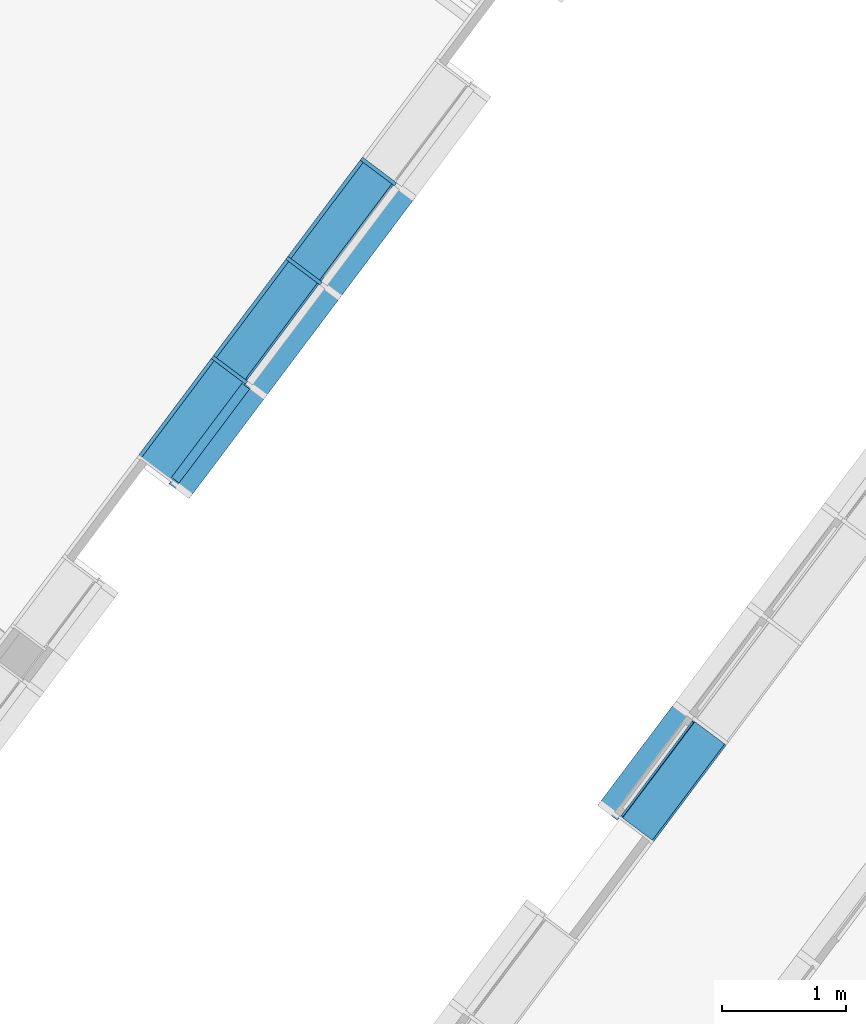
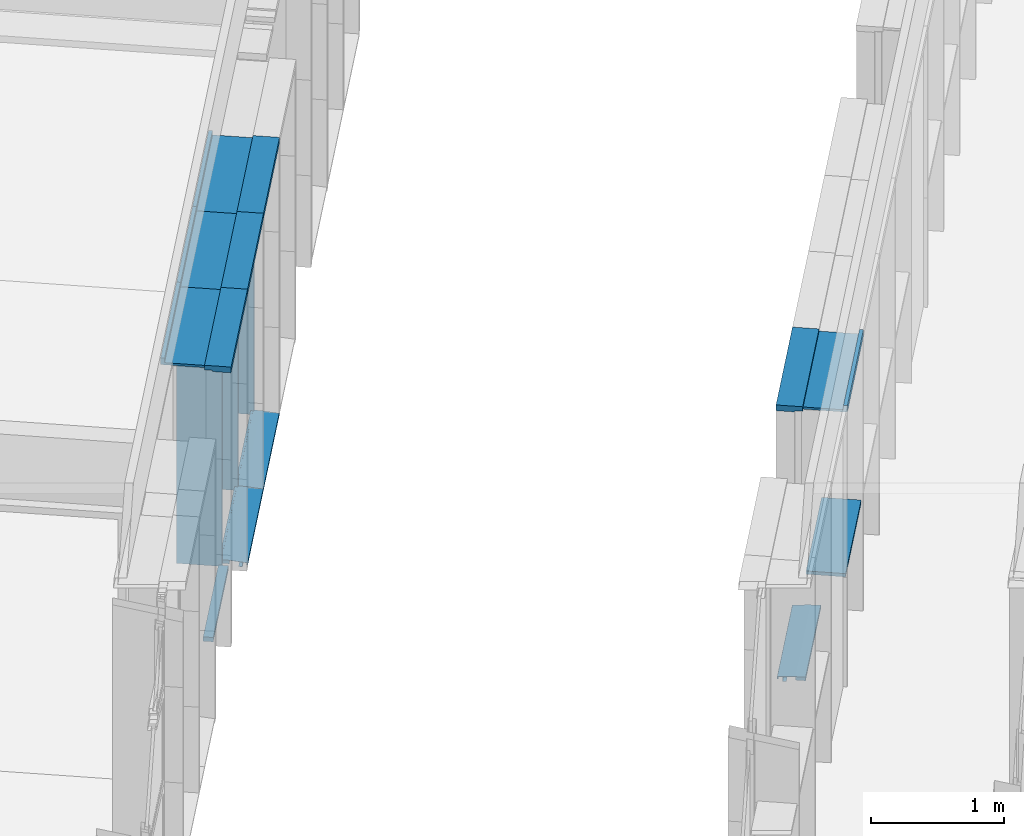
# One storey, part 44 of 243: 16 members, 4 elements without a shape of their own.
"""IFC2X3 building model written with IfcOpenShell, lengths in metres."""

from ifc_helpers import new_model, entity, si_unit, converted_unit, derived_unit, direction, frame, frame_2d, origin, origin_2d_with_axis, place, context, subcontext, project, spatial, polyline, circle_curve, parameter, trimmed, segment, composite_curve, rectangle, outline, extrude, source, transform, mapped, material, type_object, type_shapes, element, aggregate, save


model = new_model("IFC2X3")

# Units and contexts
model_context = context("Model", 3, precision=1e-05, world=origin(), true_north=direction((6.123031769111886e-17, 1.0)))
body_context = subcontext(model_context, "Body", "Model", "MODEL_VIEW")
ifc_project = project(units=[si_unit("LENGTHUNIT", "METRE"), si_unit("AREAUNIT", "SQUARE_METRE"), si_unit("VOLUMEUNIT", "CUBIC_METRE"), converted_unit("PLANEANGLEUNIT", "DEGREE", entity("IfcRatioMeasure", 0.017453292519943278), si_unit("PLANEANGLEUNIT", "RADIAN"), dimensions=[0, 0, 0, 0, 0, 0, 0]), si_unit("MASSUNIT", "GRAM", prefix="KILO"), derived_unit("MASSDENSITYUNIT", [(si_unit("MASSUNIT", "GRAM", prefix="KILO"), 1), (si_unit("LENGTHUNIT", "METRE"), -3)]), derived_unit("IONCONCENTRATIONUNIT", [(si_unit("MASSUNIT", "GRAM", prefix="KILO"), 1), (si_unit("LENGTHUNIT", "METRE"), -3)]), derived_unit("MOMENTOFINERTIAUNIT", [(si_unit("LENGTHUNIT", "METRE"), 4)]), si_unit("TIMEUNIT", "SECOND"), si_unit("FREQUENCYUNIT", "HERTZ"), si_unit("THERMODYNAMICTEMPERATUREUNIT", "DEGREE_CELSIUS"), derived_unit("THERMALTRANSMITTANCEUNIT", [(si_unit("MASSUNIT", "GRAM", prefix="KILO"), 1), (si_unit("THERMODYNAMICTEMPERATUREUNIT", "KELVIN"), -1), (si_unit("TIMEUNIT", "SECOND"), -3)]), derived_unit("THERMALCONDUCTANCEUNIT", [(si_unit("MASSUNIT", "GRAM", prefix="KILO"), 1), (si_unit("THERMODYNAMICTEMPERATUREUNIT", "KELVIN"), -1), (si_unit("TIMEUNIT", "SECOND"), -3), (si_unit("LENGTHUNIT", "METRE"), 1)]), derived_unit("VOLUMETRICFLOWRATEUNIT", [(si_unit("LENGTHUNIT", "METRE"), 3), (si_unit("TIMEUNIT", "SECOND"), -1)]), derived_unit("MASSFLOWRATEUNIT", [(si_unit("MASSUNIT", "GRAM", prefix="KILO"), 1), (si_unit("TIMEUNIT", "SECOND"), -1)]), derived_unit("ROTATIONALFREQUENCYUNIT", [(si_unit("TIMEUNIT", "SECOND"), -1)]), si_unit("ELECTRICCURRENTUNIT", "AMPERE"), si_unit("ELECTRICVOLTAGEUNIT", "VOLT"), si_unit("POWERUNIT", "WATT"), si_unit("FORCEUNIT", "NEWTON", prefix="KILO"), si_unit("ILLUMINANCEUNIT", "LUX"), si_unit("LUMINOUSFLUXUNIT", "LUMEN"), si_unit("LUMINOUSINTENSITYUNIT", "CANDELA"), derived_unit("USERDEFINED", [(si_unit("MASSUNIT", "GRAM", prefix="KILO"), -1), (si_unit("LENGTHUNIT", "METRE"), -2), (si_unit("TIMEUNIT", "SECOND"), 3), (si_unit("LUMINOUSFLUXUNIT", "LUMEN"), 1)]), derived_unit("USERDEFINED", [(si_unit("MASSUNIT", "GRAM", prefix="KILO"), 1), (si_unit("TIMEUNIT", "SECOND"), -3), (si_unit("LENGTHUNIT", "METRE"), 3), (si_unit("ELECTRICCURRENTUNIT", "AMPERE"), -2)]), derived_unit("SOUNDPOWERUNIT", [(si_unit("MASSUNIT", "GRAM", prefix="KILO"), 1), (si_unit("TIMEUNIT", "SECOND"), -3), (si_unit("LENGTHUNIT", "METRE"), 2)]), derived_unit("SOUNDPRESSUREUNIT", [(si_unit("MASSUNIT", "GRAM", prefix="KILO"), 1), (si_unit("LENGTHUNIT", "METRE"), -1), (si_unit("TIMEUNIT", "SECOND"), -2)]), derived_unit("LINEARVELOCITYUNIT", [(si_unit("LENGTHUNIT", "METRE"), 1), (si_unit("TIMEUNIT", "SECOND"), -1)]), si_unit("PRESSUREUNIT", "PASCAL"), derived_unit("USERDEFINED", [(si_unit("MASSUNIT", "GRAM", prefix="KILO"), 1), (si_unit("LENGTHUNIT", "METRE"), -2), (si_unit("TIMEUNIT", "SECOND"), -2)]), derived_unit("LINEARFORCEUNIT", [(si_unit("MASSUNIT", "GRAM", prefix="KILO"), 1), (si_unit("TIMEUNIT", "SECOND"), -2)]), derived_unit("PLANARFORCEUNIT", [(si_unit("MASSUNIT", "GRAM", prefix="KILO"), 1), (si_unit("LENGTHUNIT", "METRE"), -1), (si_unit("TIMEUNIT", "SECOND"), -2)]), derived_unit("SPECIFICHEATCAPACITYUNIT", [(si_unit("THERMODYNAMICTEMPERATUREUNIT", "KELVIN"), -1), (si_unit("LENGTHUNIT", "METRE"), 2), (si_unit("TIMEUNIT", "SECOND"), -2)]), derived_unit("HEATINGVALUEUNIT", [(si_unit("LENGTHUNIT", "METRE"), 2), (si_unit("TIMEUNIT", "SECOND"), -2)]), derived_unit("VAPORPERMEABILITYUNIT", [(si_unit("LENGTHUNIT", "METRE"), -1), (si_unit("TIMEUNIT", "SECOND"), 1)]), derived_unit("DYNAMICVISCOSITYUNIT", [(si_unit("MASSUNIT", "GRAM", prefix="KILO"), 1), (si_unit("TIMEUNIT", "SECOND"), -1), (si_unit("LENGTHUNIT", "METRE"), -1)]), derived_unit("THERMALEXPANSIONCOEFFICIENTUNIT", [(si_unit("THERMODYNAMICTEMPERATUREUNIT", "KELVIN"), -1)]), derived_unit("MODULUSOFELASTICITYUNIT", [(si_unit("MASSUNIT", "GRAM", prefix="KILO"), 1), (si_unit("LENGTHUNIT", "METRE"), -1), (si_unit("TIMEUNIT", "SECOND"), -2)]), derived_unit("ISOTHERMALMOISTURECAPACITYUNIT", [(si_unit("LENGTHUNIT", "METRE"), 3), (si_unit("MASSUNIT", "GRAM", prefix="KILO"), -1)]), derived_unit("MOISTUREDIFFUSIVITYUNIT", [(si_unit("TIMEUNIT", "SECOND"), -1), (si_unit("LENGTHUNIT", "METRE"), 2)])], contexts=[model_context])

# Site, building, storey
site_placement = place(None, frame((0.0, 0.0, 235.0), z_axis=(0.0, 0.0, 1.0), x_axis=(-0.7996477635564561, 0.6004693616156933, 0.0)))
site = spatial("IfcSite", under=ifc_project, at=site_placement, Name="Default", CompositionType="ELEMENT")
building_placement = place(site_placement, origin())
building = spatial("IfcBuilding", under=site, at=building_placement, CompositionType="ELEMENT")
storey_placement = place(building_placement, origin())
storey = spatial("IfcBuildingStorey", under=building, at=storey_placement, Name="P0- Escola", CompositionType="ELEMENT", Elevation=0.0)

# Curtain wall, members
curtain_wall_type_1 = type_object("IfcCurtainWallType", Name="Muro cortina:MC- EXT- MC2", PredefinedType="NOTDEFINED")
curtain_wall_1_placement = place(storey_placement, origin())
curtain_wall_1 = element("IfcCurtainWall", 1, at=curtain_wall_1_placement, inside=storey, type_object=curtain_wall_type_1, Name="Muro cortina:MC- EXT- MC2", ObjectType="Muro cortina:MC- EXT- MC2")
ifc_material_1 = material(Name="_Alumini- T1- Perfil")
member_type_1 = type_object("IfcMemberType", Name="Montante rectangular:MC- Alu- 140x52,5 cm- Fa patis- Superior", PredefinedType="MULLION", material=ifc_material_1)
shared_shape_1 = source(origin(), body_context, "Body", "SweptSolid", [
    extrude(outline(polyline([(-0.11366666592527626, -0.021249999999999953), (0.026333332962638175, -0.021249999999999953), (0.026333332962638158, -0.010000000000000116), (0.0873333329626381, -0.010000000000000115), (0.0873333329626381, 0.03125000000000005), (-0.11366666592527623, 0.031250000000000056), (-0.11366666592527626, -0.021249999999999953)])), frame((-0.031250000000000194, 0.0273333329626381, -1.0), z_axis=(0.0, 0.0, 1.0), x_axis=(0.0, -1.0, 0.0)), (0.0, 0.0, 1.0), 0.9999999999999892),
])
type_shapes(member_type_1, [shared_shape_1])
member_1_placement = place(curtain_wall_1_placement, frame((53.74514768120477, -27.41519175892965, 2.545), z_axis=(0.0, -1.0, 0.0), x_axis=(0.0, 0.0, 1.0)))
member_1 = element("IfcMember", 2, at=member_1_placement, type_object=member_type_1, material=ifc_material_1, Name="Montante rectangular:MC- Alu- 140x52,5 cm- Fa patis- Superior", ObjectType="Montante rectangular:MC- Alu- 140x52,5 cm- Fa patis- Superior", context=body_context, shape_type="MappedRepresentation", body=[
    mapped(shared_shape_1, transform((0.0, 0.0, 0.0), scale=1.0)),
])
member_2_placement = place(curtain_wall_1_placement, frame((53.74514768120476, -28.415191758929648, 2.545), z_axis=(0.0, -1.0, 0.0), x_axis=(0.0, 0.0, 1.0)))
member_2 = element("IfcMember", 3, at=member_2_placement, type_object=member_type_1, material=ifc_material_1, Name="Montante rectangular:MC- Alu- 140x52,5 cm- Fa patis- Superior", ObjectType="Montante rectangular:MC- Alu- 140x52,5 cm- Fa patis- Superior", context=body_context, shape_type="MappedRepresentation", body=[
    mapped(shared_shape_1, transform((0.0, 0.0, 0.0), scale=1.0)),
])
member_type_2 = type_object("IfcMemberType", Name="Montante rectangular:MC- Alu- 140x52,5 cm- Fa patis- inferior", PredefinedType="MULLION", material=ifc_material_1)
shared_shape_2 = source(origin(), body_context, "Body", "SweptSolid", [
    extrude(outline(composite_curve([segment(polyline([(0.1278672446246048, -0.02586710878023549), (0.14416724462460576, -0.025867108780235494)]), True, "CONTINUOUS"), segment(polyline([(0.14416724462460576, -0.025867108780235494), (0.1441672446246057, 0.009132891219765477)]), True, "CONTINUOUS"), segment(polyline([(0.1441672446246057, 0.009132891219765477), (0.06786724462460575, 0.009132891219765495)]), True, "CONTINUOUS"), segment(polyline([(0.06786724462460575, 0.009132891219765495), (0.06786724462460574, -0.021159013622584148)]), True, "CONTINUOUS"), segment(polyline([(0.06786724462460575, -0.02115901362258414), (-0.030132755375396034, -0.012332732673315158)]), True, "CONTINUOUS"), segment(polyline([(-0.03013275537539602, -0.012332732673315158), (-0.030132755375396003, 0.027132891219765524)]), True, "CONTINUOUS"), segment(polyline([(-0.030132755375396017, 0.02713289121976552), (-0.0021327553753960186, 0.02713289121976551)]), True, "CONTINUOUS"), segment(polyline([(-0.0021327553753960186, 0.027132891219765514), (-0.0021327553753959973, 0.029132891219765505)]), True, "CONTINUOUS"), segment(polyline([(-0.0021327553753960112, 0.029132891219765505), (-0.032132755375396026, 0.029132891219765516)]), True, "CONTINUOUS"), segment(polyline([(-0.032132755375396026, 0.029132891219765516), (-0.03213275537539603, -0.012152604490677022)]), True, "CONTINUOUS"), segment(polyline([(-0.03213275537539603, -0.012152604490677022), (-0.0701327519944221, -0.008730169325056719)]), True, "CONTINUOUS"), segment(polyline([(-0.0701327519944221, -0.008730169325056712), (-0.0701327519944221, 0.005766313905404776)]), True, "CONTINUOUS"), segment(trimmed(circle_curve(frame_2d((-0.0696327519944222, 0.0057663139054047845), x_axis=(-1.0, 0.0)), 0.0004999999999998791), [parameter(269.999999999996)], [parameter(0.0)], True, "PARAMETER"), False, "CONTINUOUS"), segment(polyline([(-0.0696327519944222, 0.00626631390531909), (-0.06213275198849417, 0.006266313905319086)]), True, "CONTINUOUS"), segment(polyline([(-0.06213275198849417, 0.006266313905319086), (-0.06213275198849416, 0.008266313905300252)]), True, "CONTINUOUS"), segment(polyline([(-0.06213275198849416, 0.008266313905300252), (-0.07013275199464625, 0.008266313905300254)]), True, "CONTINUOUS"), segment(trimmed(circle_curve(frame_2d((-0.07013275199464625, 0.006266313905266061), x_axis=(0.0, 1.0)), 0.0020000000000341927), [parameter(0.0)], [parameter(90.00000002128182)], True, "PARAMETER"), True, "CONTINUOUS"), segment(polyline([(-0.07213275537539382, 0.006266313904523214), (-0.07213275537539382, -0.008730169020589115)]), True, "CONTINUOUS"), segment(trimmed(circle_curve(frame_2d((-0.07013275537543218, -0.008730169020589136), x_axis=(-1.0, 0.0)), 0.0019999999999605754), [parameter(0.0)], [parameter(84.85359280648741)], True, "PARAMETER"), True, "CONTINUOUS"), segment(polyline([(-0.07031215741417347, -0.01072210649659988), (0.06786724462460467, -0.023167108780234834)]), True, "CONTINUOUS"), segment(polyline([(0.06786724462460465, -0.023167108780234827), (0.12786724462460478, -0.023167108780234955)]), True, "CONTINUOUS"), segment(polyline([(0.12786724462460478, -0.023167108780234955), (0.1278672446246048, -0.02586710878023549)]), True, "CONTINUOUS")], self_intersect=False)), frame((-0.029132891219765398, 0.06786724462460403, -0.9737499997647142), z_axis=(0.0, 0.0, 1.0), x_axis=(0.0, -1.0, 0.0)), (0.0, 0.0, 1.0), 0.9737499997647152),
])
type_shapes(member_type_2, [shared_shape_2])
member_3_placement = place(curtain_wall_1_placement, frame((53.74514768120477, -26.441441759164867, -0.02), z_axis=(0.0, 1.0, 0.0), x_axis=(0.0, 0.0, -1.0)))
member_3 = element("IfcMember", 4, at=member_3_placement, type_object=member_type_2, material=ifc_material_1, Name="Montante rectangular:MC- Alu- 140x52,5 cm- Fa patis- inferior", ObjectType="Montante rectangular:MC- Alu- 140x52,5 cm- Fa patis- inferior", context=body_context, shape_type="MappedRepresentation", body=[
    mapped(shared_shape_2, transform((0.0, 0.0, 0.0), scale=1.0)),
])
member_type_3 = type_object("IfcMemberType", Name="Montante rectangular:MC- Alu- 140x52,5 cm- Fa patis- inferior", PredefinedType="MULLION", material=ifc_material_1)
shared_shape_3 = source(origin(), body_context, "Body", "SweptSolid", [
    extrude(outline(composite_curve([segment(polyline([(0.1278672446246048, -0.02586710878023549), (0.14416724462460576, -0.025867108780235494)]), True, "CONTINUOUS"), segment(polyline([(0.14416724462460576, -0.025867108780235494), (0.1441672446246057, 0.009132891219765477)]), True, "CONTINUOUS"), segment(polyline([(0.1441672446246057, 0.009132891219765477), (0.06786724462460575, 0.009132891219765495)]), True, "CONTINUOUS"), segment(polyline([(0.06786724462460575, 0.009132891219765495), (0.06786724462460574, -0.021159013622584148)]), True, "CONTINUOUS"), segment(polyline([(0.06786724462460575, -0.02115901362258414), (-0.030132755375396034, -0.012332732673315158)]), True, "CONTINUOUS"), segment(polyline([(-0.03013275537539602, -0.012332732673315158), (-0.030132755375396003, 0.027132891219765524)]), True, "CONTINUOUS"), segment(polyline([(-0.030132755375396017, 0.02713289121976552), (-0.0021327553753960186, 0.02713289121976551)]), True, "CONTINUOUS"), segment(polyline([(-0.0021327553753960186, 0.027132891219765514), (-0.0021327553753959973, 0.029132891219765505)]), True, "CONTINUOUS"), segment(polyline([(-0.0021327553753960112, 0.029132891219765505), (-0.032132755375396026, 0.029132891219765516)]), True, "CONTINUOUS"), segment(polyline([(-0.032132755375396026, 0.029132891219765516), (-0.03213275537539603, -0.012152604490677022)]), True, "CONTINUOUS"), segment(polyline([(-0.03213275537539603, -0.012152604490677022), (-0.0701327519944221, -0.008730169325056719)]), True, "CONTINUOUS"), segment(polyline([(-0.0701327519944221, -0.008730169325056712), (-0.0701327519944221, 0.005766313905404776)]), True, "CONTINUOUS"), segment(trimmed(circle_curve(frame_2d((-0.0696327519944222, 0.0057663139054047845), x_axis=(-1.0, 0.0)), 0.0004999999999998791), [parameter(269.999999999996)], [parameter(0.0)], True, "PARAMETER"), False, "CONTINUOUS"), segment(polyline([(-0.0696327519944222, 0.00626631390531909), (-0.06213275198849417, 0.006266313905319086)]), True, "CONTINUOUS"), segment(polyline([(-0.06213275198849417, 0.006266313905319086), (-0.06213275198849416, 0.008266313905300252)]), True, "CONTINUOUS"), segment(polyline([(-0.06213275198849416, 0.008266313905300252), (-0.07013275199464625, 0.008266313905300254)]), True, "CONTINUOUS"), segment(trimmed(circle_curve(frame_2d((-0.07013275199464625, 0.006266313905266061), x_axis=(0.0, 1.0)), 0.0020000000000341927), [parameter(0.0)], [parameter(90.00000002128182)], True, "PARAMETER"), True, "CONTINUOUS"), segment(polyline([(-0.07213275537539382, 0.006266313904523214), (-0.07213275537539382, -0.008730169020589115)]), True, "CONTINUOUS"), segment(trimmed(circle_curve(frame_2d((-0.07013275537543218, -0.008730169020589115), x_axis=(-1.0, 0.0)), 0.0019999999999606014), [parameter(0.0)], [parameter(84.8535928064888)], True, "PARAMETER"), True, "CONTINUOUS"), segment(polyline([(-0.07031215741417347, -0.01072210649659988), (0.06786724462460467, -0.023167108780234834)]), True, "CONTINUOUS"), segment(polyline([(0.06786724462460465, -0.023167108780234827), (0.12786724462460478, -0.023167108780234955)]), True, "CONTINUOUS"), segment(polyline([(0.12786724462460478, -0.023167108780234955), (0.1278672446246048, -0.02586710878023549)]), True, "CONTINUOUS")], self_intersect=False)), frame((-0.029132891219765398, 0.06786724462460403, -1.0), z_axis=(0.0, 0.0, 1.0), x_axis=(0.0, -1.0, 0.0)), (0.0, 0.0, 1.0), 0.9999999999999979),
])
type_shapes(member_type_3, [shared_shape_3])
member_4_placement = place(curtain_wall_1_placement, frame((53.74514768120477, -27.41519175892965, -0.02), z_axis=(0.0, 1.0, 0.0), x_axis=(0.0, 0.0, -1.0)))
member_4 = element("IfcMember", 5, at=member_4_placement, type_object=member_type_3, material=ifc_material_1, Name="Montante rectangular:MC- Alu- 140x52,5 cm- Fa patis- inferior", ObjectType="Montante rectangular:MC- Alu- 140x52,5 cm- Fa patis- inferior", context=body_context, shape_type="MappedRepresentation", body=[
    mapped(shared_shape_3, transform((0.0, 0.0, 0.0), scale=1.0)),
])

curtain_wall_type_2 = type_object("IfcCurtainWallType", Name="Muro cortina:MC- INT- k7- Aules infantil", PredefinedType="NOTDEFINED")
curtain_wall_2_placement = place(storey_placement, origin())
curtain_wall_2 = element("IfcCurtainWall", 6, at=curtain_wall_2_placement, inside=storey, type_object=curtain_wall_type_2, Name="Muro cortina:MC- INT- k7- Aules infantil", ObjectType="Muro cortina:MC- INT- k7- Aules infantil")
ifc_material_2 = material(Name="_Fusta massisa- T1")
member_type_4 = type_object("IfcMemberType", Name="Montante rectangular:MC- Fusta- 35x3 cm- Centre", PredefinedType="MULLION", material=ifc_material_2)
shared_shape_4 = source(origin(), body_context, "Body", "SweptSolid", [
    extrude(rectangle(XDim=0.3450000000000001, YDim=0.030000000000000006, at=frame_2d((0.0, 1.3964523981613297e-16), x_axis=(1.0, 0.0))), frame((0.0, 0.07750000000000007, -2.5049999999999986), z_axis=(0.0, 0.0, 1.0), x_axis=(0.0, -1.0, 0.0)), (0.0, 0.0, 1.0), 2.5049999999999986),
])
type_shapes(member_type_4, [shared_shape_4])
member_5_placement = place(curtain_wall_2_placement, frame((54.04514768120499, -26.415191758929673, 0.0), z_axis=(0.0, 0.0, -1.0), x_axis=(0.0, -1.0, 0.0)))
member_5 = element("IfcMember", 7, at=member_5_placement, type_object=member_type_4, material=ifc_material_2, Name="Montante rectangular:MC- Fusta- 35x3 cm- Centre", ObjectType="Montante rectangular:MC- Fusta- 35x3 cm- Centre", context=body_context, shape_type="MappedRepresentation", body=[
    mapped(shared_shape_4, transform((0.0, 0.0, 0.0), scale=1.0)),
])
member_6_placement = place(curtain_wall_2_placement, frame((54.04514768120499, -27.41519175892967, 0.0), z_axis=(0.0, 0.0, -1.0), x_axis=(0.0, -1.0, 0.0)))
member_6 = element("IfcMember", 8, at=member_6_placement, type_object=member_type_4, material=ifc_material_2, Name="Montante rectangular:MC- Fusta- 35x3 cm- Centre", ObjectType="Montante rectangular:MC- Fusta- 35x3 cm- Centre", context=body_context, shape_type="MappedRepresentation", body=[
    mapped(shared_shape_4, transform((0.0, 0.0, 0.0), scale=1.0)),
])
member_7_placement = place(curtain_wall_2_placement, frame((54.04514768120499, -28.415191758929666, 0.0), z_axis=(0.0, 0.0, -1.0), x_axis=(0.0, -1.0, 0.0)))
member_7 = element("IfcMember", 9, at=member_7_placement, type_object=member_type_4, material=ifc_material_2, Name="Montante rectangular:MC- Fusta- 35x3 cm- Centre", ObjectType="Montante rectangular:MC- Fusta- 35x3 cm- Centre", context=body_context, shape_type="MappedRepresentation", body=[
    mapped(shared_shape_4, transform((0.0, 0.0, 0.0), scale=1.0)),
])
member_type_5 = type_object("IfcMemberType", Name="Montante rectangular:MC- Fusta- 35x3 cm- Pati aules- Remat superior", PredefinedType="MULLION", material=ifc_material_2)
shared_shape_5 = source(origin(), body_context, "Body", "SweptSolid", [
    extrude(outline(polyline([(-0.21333333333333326, -0.02666666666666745), (0.1216666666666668, -0.02666666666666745), (0.12166666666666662, 0.03333333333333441), (0.09166666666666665, 0.03333333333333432), (0.09166666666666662, -0.006666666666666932), (-0.2133333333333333, -0.006666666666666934), (-0.21333333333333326, -0.02666666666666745)])), frame((-0.033333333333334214, 0.026666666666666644, -1.0), z_axis=(0.0, 0.0, 1.0), x_axis=(0.0, -1.0, 0.0)), (0.0, 0.0, 1.0), 0.9999999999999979),
])
type_shapes(member_type_5, [shared_shape_5])
member_8_placement = place(curtain_wall_2_placement, frame((54.04514768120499, -27.41519175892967, 2.565), z_axis=(0.0, -1.0, 0.0), x_axis=(0.0, 0.0, 1.0)))
member_8 = element("IfcMember", 10, at=member_8_placement, type_object=member_type_5, material=ifc_material_2, Name="Montante rectangular:MC- Fusta- 35x3 cm- Pati aules- Remat superior", ObjectType="Montante rectangular:MC- Fusta- 35x3 cm- Pati aules- Remat superior", context=body_context, shape_type="MappedRepresentation", body=[
    mapped(shared_shape_5, transform((0.0, 0.0, 0.0), scale=1.0)),
])
member_9_placement = place(curtain_wall_2_placement, frame((54.04514768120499, -28.415191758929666, 2.565), z_axis=(0.0, -1.0, 0.0), x_axis=(0.0, 0.0, 1.0)))
member_9 = element("IfcMember", 11, at=member_9_placement, type_object=member_type_5, material=ifc_material_2, Name="Montante rectangular:MC- Fusta- 35x3 cm- Pati aules- Remat superior", ObjectType="Montante rectangular:MC- Fusta- 35x3 cm- Pati aules- Remat superior", context=body_context, shape_type="MappedRepresentation", body=[
    mapped(shared_shape_5, transform((0.0, 0.0, 0.0), scale=1.0)),
])
member_type_6 = type_object("IfcMemberType", Name="Montante rectangular:MC- Fusta- 35x3 cm- Pati aules- Remat superior", PredefinedType="MULLION", material=ifc_material_2)
shared_shape_6 = source(origin(), body_context, "Body", "SweptSolid", [
    extrude(outline(polyline([(-0.21333333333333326, -0.02666666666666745), (0.1216666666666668, -0.02666666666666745), (0.12166666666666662, 0.03333333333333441), (0.09166666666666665, 0.03333333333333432), (0.09166666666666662, -0.006666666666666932), (-0.2133333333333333, -0.006666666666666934), (-0.21333333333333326, -0.02666666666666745)])), frame((-0.033333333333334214, 0.026666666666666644, -1.0), z_axis=(0.0, 0.0, 1.0), x_axis=(0.0, -1.0, 0.0)), (0.0, 0.0, 1.0), 0.9999999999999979),
])
type_shapes(member_type_6, [shared_shape_6])
member_10_placement = place(curtain_wall_2_placement, frame((54.04514768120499, -26.415191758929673, 2.565), z_axis=(0.0, -1.0, 0.0), x_axis=(0.0, 0.0, 1.0)))
member_10 = element("IfcMember", 12, at=member_10_placement, type_object=member_type_6, material=ifc_material_2, Name="Montante rectangular:MC- Fusta- 35x3 cm- Pati aules- Remat superior", ObjectType="Montante rectangular:MC- Fusta- 35x3 cm- Pati aules- Remat superior", context=body_context, shape_type="MappedRepresentation", body=[
    mapped(shared_shape_6, transform((0.0, 0.0, 0.0), scale=1.0)),
])
aggregate(curtain_wall_2, [member_10, member_5, member_8, member_6, member_9, member_7])

curtain_wall_type_3 = type_object("IfcCurtainWallType", Name="Muro cortina:MC- INT- k2", PredefinedType="NOTDEFINED")
curtain_wall_3_placement = place(storey_placement, origin())
curtain_wall_3 = element("IfcCurtainWall", 13, at=curtain_wall_3_placement, inside=storey, type_object=curtain_wall_type_3, Name="Muro cortina:MC- INT- k2", ObjectType="Muro cortina:MC- INT- k2")
member_type_7 = type_object("IfcMemberType", Name="Montante rectangular:MC- Fusta- 35x3 cm- Pati aules- Remat superior", PredefinedType="MULLION", material=ifc_material_2)
shared_shape_7 = source(origin(), body_context, "Body", "SweptSolid", [
    extrude(outline(polyline([(-0.12166666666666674, -0.02666666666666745), (0.21333333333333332, -0.02666666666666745), (0.2133333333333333, -0.006666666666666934), (-0.09166666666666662, -0.006666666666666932), (-0.09166666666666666, 0.03333333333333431), (-0.12166666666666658, 0.03333333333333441), (-0.12166666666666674, -0.02666666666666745)])), frame((-0.033333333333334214, -0.026666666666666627, -1.0), z_axis=(0.0, 0.0, 1.0), x_axis=(0.0, -1.0, 0.0)), (0.0, 0.0, 1.0), 0.9999999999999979),
])
type_shapes(member_type_7, [shared_shape_7])
member_11_placement = place(curtain_wall_3_placement, frame((49.04514768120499, -26.415191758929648, 2.565), z_axis=(0.0, -1.0, 0.0), x_axis=(0.0, 0.0, 1.0)))
member_11 = element("IfcMember", 14, at=member_11_placement, type_object=member_type_7, material=ifc_material_2, Name="Montante rectangular:MC- Fusta- 35x3 cm- Pati aules- Remat superior", ObjectType="Montante rectangular:MC- Fusta- 35x3 cm- Pati aules- Remat superior", context=body_context, shape_type="MappedRepresentation", body=[
    mapped(shared_shape_7, transform((0.0, 0.0, 0.0), scale=1.0)),
])
member_type_8 = type_object("IfcMemberType", Name="Montante rectangular:MC- Fusta- 35x3 cm- Pati aules- Prestatge", PredefinedType="MULLION", material=ifc_material_2)
shared_shape_8 = source(origin(), body_context, "Body", "SweptSolid", [
    extrude(rectangle(XDim=0.30000000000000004, YDim=0.03000000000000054, at=frame_2d((0.0, -1.231653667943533e-16), x_axis=(1.0, 0.0))), frame((0.0, -0.07000000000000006, -0.9699999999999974), z_axis=(0.0, 0.0, 1.0), x_axis=(0.0, -1.0, 0.0)), (0.0, 0.0, 1.0), 0.969999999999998),
])
type_shapes(member_type_8, [shared_shape_8])
member_12_placement = place(curtain_wall_3_placement, frame((49.04514768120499, -26.400191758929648, 1.0), z_axis=(0.0, -1.0, 0.0), x_axis=(0.0, 0.0, 1.0)))
member_12 = element("IfcMember", 15, at=member_12_placement, type_object=member_type_8, material=ifc_material_2, Name="Montante rectangular:MC- Fusta- 35x3 cm- Pati aules- Prestatge", ObjectType="Montante rectangular:MC- Fusta- 35x3 cm- Pati aules- Prestatge", context=body_context, shape_type="MappedRepresentation", body=[
    mapped(shared_shape_8, transform((0.0, 0.0, 0.0), scale=1.0)),
])
aggregate(curtain_wall_3, [member_11, member_12])

# Member
member_type_9 = type_object("IfcMemberType", Name="Montante rectangular:MC- Alu- 140x52,5 cm- Fa patis- inferior porta", PredefinedType="MULLION", material=ifc_material_1)
shared_shape_9 = source(origin(), body_context, "Body", "SweptSolid", [
    extrude(rectangle(XDim=0.07629999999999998, YDim=0.04, at=origin_2d_with_axis()), frame((-0.020000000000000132, -0.0381500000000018, -0.9474999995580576), z_axis=(0.0, 0.0, 1.0), x_axis=(0.0, -1.0, 0.0)), (0.0, 0.0, 1.0), 0.9474999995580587),
])
type_shapes(member_type_9, [shared_shape_9])
member_13_placement = place(curtain_wall_1_placement, frame((53.74514768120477, -25.441441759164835, -0.02), z_axis=(0.0, 1.0, 0.0), x_axis=(0.0, 0.0, -1.0)))
member_13 = element("IfcMember", 16, at=member_13_placement, type_object=member_type_9, material=ifc_material_1, Name="Montante rectangular:MC- Alu- 140x52,5 cm- Fa patis- inferior porta", ObjectType="Montante rectangular:MC- Alu- 140x52,5 cm- Fa patis- inferior porta", context=body_context, shape_type="MappedRepresentation", body=[
    mapped(shared_shape_9, transform((0.0, 0.0, 0.0), scale=1.0)),
])

member_type_10 = type_object("IfcMemberType", Name="Montante rectangular:MC- Alu- 140x52,5 cm- Fa patis- Superior", PredefinedType="MULLION", material=ifc_material_1)
shared_shape_10 = source(origin(), body_context, "Body", "SweptSolid", [
    extrude(outline(polyline([(-0.11366666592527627, -0.021249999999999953), (0.02633333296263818, -0.021249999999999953), (0.02633333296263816, -0.010000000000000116), (0.08733333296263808, -0.010000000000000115), (0.08733333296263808, 0.03125000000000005), (-0.11366666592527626, 0.031250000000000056), (-0.11366666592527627, -0.021249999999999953)])), frame((-0.031250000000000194, 0.027333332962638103, -1.0262500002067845), z_axis=(0.0, 0.0, 1.0), x_axis=(0.0, -1.0, 0.0)), (0.0, 0.0, 1.0), 1.0262500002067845),
])
type_shapes(member_type_10, [shared_shape_10])
member_14_placement = place(curtain_wall_1_placement, frame((53.74514768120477, -26.415191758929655, 2.545), z_axis=(0.0, -1.0, 0.0), x_axis=(0.0, 0.0, 1.0)))
member_14 = element("IfcMember", 17, at=member_14_placement, type_object=member_type_10, material=ifc_material_1, Name="Montante rectangular:MC- Alu- 140x52,5 cm- Fa patis- Superior", ObjectType="Montante rectangular:MC- Alu- 140x52,5 cm- Fa patis- Superior", context=body_context, shape_type="MappedRepresentation", body=[
    mapped(shared_shape_10, transform((0.0, 0.0, 0.0), scale=1.0)),
])

aggregate(curtain_wall_1, [member_14, member_3, member_1, member_4, member_2, member_13])

# Curtain wall, members
curtain_wall_type_4 = type_object("IfcCurtainWallType", Name="Muro cortina:MC- EXT- MC5", PredefinedType="NOTDEFINED")
curtain_wall_4_placement = place(storey_placement, origin())
curtain_wall_4 = element("IfcCurtainWall", 18, at=curtain_wall_4_placement, inside=storey, type_object=curtain_wall_type_4, Name="Muro cortina:MC- EXT- MC5", ObjectType="Muro cortina:MC- EXT- MC5")
member_type_11 = type_object("IfcMemberType", Name="Montante rectangular:MC- Alu- 140x52,5 cm- Fa patis- inferior", PredefinedType="MULLION", material=ifc_material_1)
shared_shape_11 = source(origin(), body_context, "Body", "SweptSolid", [
    extrude(outline(composite_curve([segment(polyline([(-0.144167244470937, -0.02586710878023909), (-0.12786724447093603, -0.025867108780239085)]), True, "CONTINUOUS"), segment(polyline([(-0.12786724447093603, -0.025867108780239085), (-0.12786724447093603, -0.02316710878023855)]), True, "CONTINUOUS"), segment(polyline([(-0.12786724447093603, -0.02316710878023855), (-0.0678672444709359, -0.02316710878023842)]), True, "CONTINUOUS"), segment(polyline([(-0.0678672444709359, -0.02316710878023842), (0.07031215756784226, -0.010722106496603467)]), True, "CONTINUOUS"), segment(trimmed(circle_curve(frame_2d((0.07013275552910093, -0.008730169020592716), x_axis=(0.0897010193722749, -0.9959687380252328)), 0.0019999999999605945), [parameter(0.0)], [parameter(84.8535928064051)], True, "PARAMETER"), True, "CONTINUOUS"), segment(polyline([(0.07213275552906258, -0.00873016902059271), (0.07213275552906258, 0.0062663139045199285)]), True, "CONTINUOUS"), segment(trimmed(circle_curve(frame_2d((0.070132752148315, 0.006266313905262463), x_axis=(1.0, 0.0)), 0.002000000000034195), [parameter(0.0)], [parameter(90.00000002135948)], True, "PARAMETER"), True, "CONTINUOUS"), segment(polyline([(0.070132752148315, 0.00826631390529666), (0.06213275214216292, 0.008266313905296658)]), True, "CONTINUOUS"), segment(polyline([(0.06213275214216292, 0.008266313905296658), (0.06213275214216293, 0.006266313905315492)]), True, "CONTINUOUS"), segment(polyline([(0.06213275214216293, 0.006266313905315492), (0.06963275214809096, 0.006266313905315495)]), True, "CONTINUOUS"), segment(trimmed(circle_curve(frame_2d((0.06963275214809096, 0.005766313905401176), x_axis=(0.0, 1.0)), 0.0004999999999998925), [parameter(269.99999999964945)], [parameter(0.0)], True, "PARAMETER"), False, "CONTINUOUS"), segment(polyline([(0.07013275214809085, 0.0057663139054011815), (0.07013275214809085, -0.008730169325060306)]), True, "CONTINUOUS"), segment(polyline([(0.07013275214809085, -0.008730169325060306), (0.03213275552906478, -0.012152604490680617)]), True, "CONTINUOUS"), segment(polyline([(0.03213275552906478, -0.012152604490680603), (0.03213275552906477, 0.02913289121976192)]), True, "CONTINUOUS"), segment(polyline([(0.03213275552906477, 0.02913289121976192), (0.0021327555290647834, 0.02913289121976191)]), True, "CONTINUOUS"), segment(polyline([(0.0021327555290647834, 0.02913289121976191), (0.0021327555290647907, 0.027132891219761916)]), True, "CONTINUOUS"), segment(polyline([(0.0021327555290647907, 0.027132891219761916), (0.03013275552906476, 0.027132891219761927)]), True, "CONTINUOUS"), segment(polyline([(0.03013275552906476, 0.02713289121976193), (0.03013275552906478, -0.012332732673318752)]), True, "CONTINUOUS"), segment(polyline([(0.03013275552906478, -0.012332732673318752), (-0.06786724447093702, -0.021159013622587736)]), True, "CONTINUOUS"), segment(polyline([(-0.06786724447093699, -0.021159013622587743), (-0.067867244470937, 0.0091328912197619)]), True, "CONTINUOUS"), segment(polyline([(-0.06786724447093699, 0.0091328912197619), (-0.14416724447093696, 0.009132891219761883)]), True, "CONTINUOUS"), segment(polyline([(-0.14416724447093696, 0.009132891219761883), (-0.144167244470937, -0.02586710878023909)]), True, "CONTINUOUS")], self_intersect=False)), frame((-0.029132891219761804, -0.06786724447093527, -0.9474999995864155), z_axis=(0.0, 0.0, 1.0), x_axis=(0.0, -1.0, 0.0)), (0.0, 0.0, 1.0), 0.9474999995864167),
])
type_shapes(member_type_11, [shared_shape_11])
member_15_placement = place(curtain_wall_4_placement, frame((49.345147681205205, -25.441441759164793, -0.02), z_axis=(0.0, 1.0, 0.0), x_axis=(0.0, 0.0, -1.0)))
member_15 = element("IfcMember", 19, at=member_15_placement, type_object=member_type_11, material=ifc_material_1, Name="Montante rectangular:MC- Alu- 140x52,5 cm- Fa patis- inferior", ObjectType="Montante rectangular:MC- Alu- 140x52,5 cm- Fa patis- inferior", context=body_context, shape_type="MappedRepresentation", body=[
    mapped(shared_shape_11, transform((0.0, 0.0, 0.0), scale=1.0)),
])
member_type_12 = type_object("IfcMemberType", Name="Montante rectangular:MC- Alu- 140x52,5 cm- Fa patis- Superior", PredefinedType="MULLION", material=ifc_material_1)
shared_shape_12 = source(origin(), body_context, "Body", "SweptSolid", [
    extrude(outline(polyline([(-0.026333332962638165, -0.021249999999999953), (0.11366666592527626, -0.021249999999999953), (0.11366666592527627, 0.031250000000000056), (-0.08733333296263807, 0.03125000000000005), (-0.0873333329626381, -0.010000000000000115), (-0.026333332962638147, -0.010000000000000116), (-0.026333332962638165, -0.021249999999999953)])), frame((-0.031250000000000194, -0.02733333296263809, -1.0262500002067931), z_axis=(0.0, 0.0, 1.0), x_axis=(0.0, -1.0, 0.0)), (0.0, 0.0, 1.0), 1.0262500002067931),
])
type_shapes(member_type_12, [shared_shape_12])
member_16_placement = place(curtain_wall_4_placement, frame((49.345147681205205, -26.41519175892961, 2.545), z_axis=(0.0, -1.0, 0.0), x_axis=(0.0, 0.0, 1.0)))
member_16 = element("IfcMember", 20, at=member_16_placement, type_object=member_type_12, material=ifc_material_1, Name="Montante rectangular:MC- Alu- 140x52,5 cm- Fa patis- Superior", ObjectType="Montante rectangular:MC- Alu- 140x52,5 cm- Fa patis- Superior", context=body_context, shape_type="MappedRepresentation", body=[
    mapped(shared_shape_12, transform((0.0, 0.0, 0.0), scale=1.0)),
])
aggregate(curtain_wall_4, [member_16, member_15])

save(model, "model.ifc")
